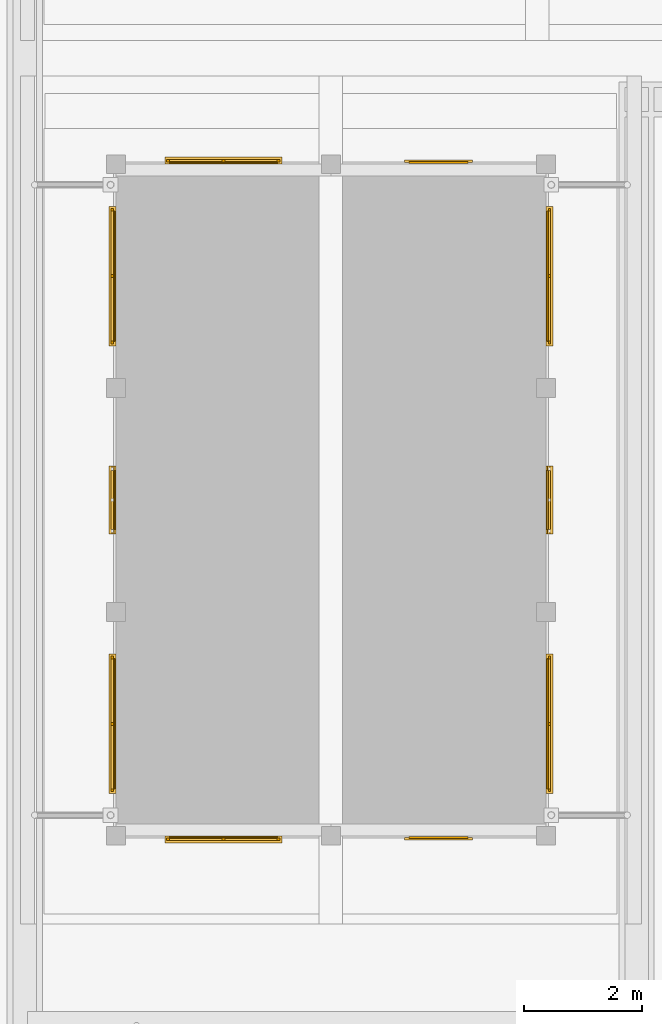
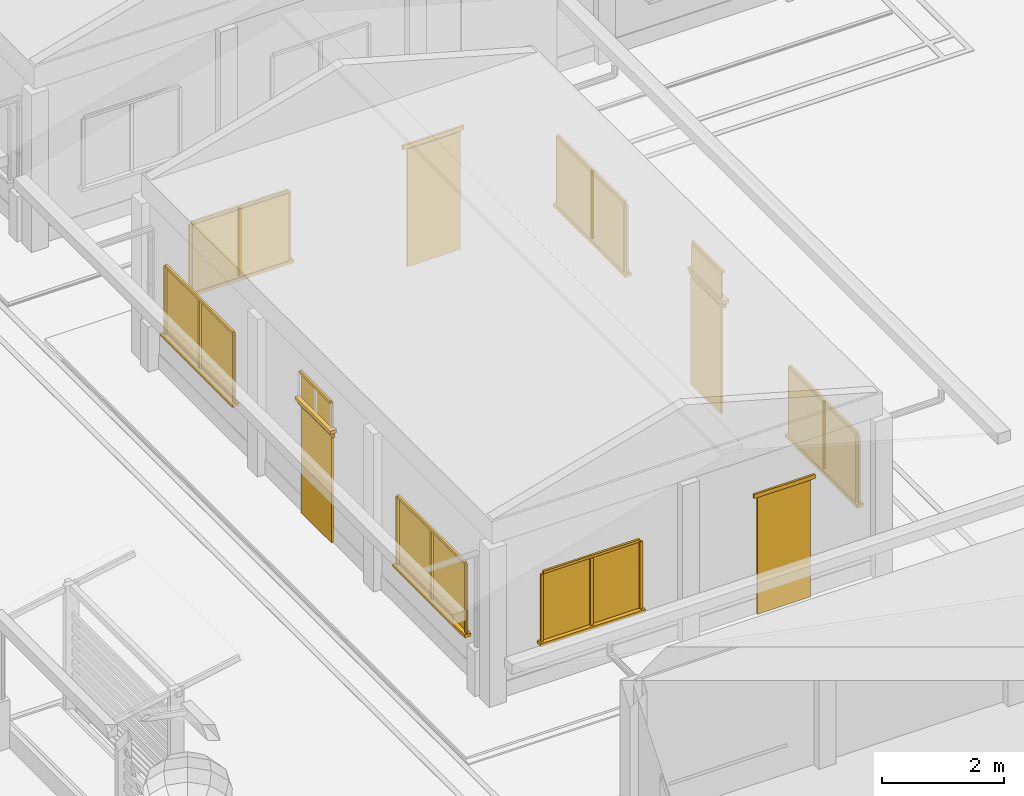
# One storey, part 52 of 177: 42 windows, 8 doors.
"""IFC4 building model written with IfcOpenShell, lengths in metres."""

from ifc_helpers import new_model, si_unit, origin, origin_with_axes, place, context, subcontext, project, spatial, triangles, element, save


model = new_model("IFC4")

# Units and contexts
model_context = context("Model", 3, precision=1e-05, world=origin_with_axes())
body_context = subcontext(model_context, "Body", "Model", "MODEL_VIEW")
ifc_project = project(units=[si_unit("LENGTHUNIT", "METRE"), si_unit("AREAUNIT", "SQUARE_METRE"), si_unit("VOLUMEUNIT", "CUBIC_METRE"), si_unit("PLANEANGLEUNIT", "RADIAN")], contexts=[model_context])

# Site, building, storey
site_placement = place(None, origin_with_axes())
site = spatial("IfcSite", under=ifc_project, at=site_placement, Name="Predio Los Mangos - Morales, San Martín", CompositionType="ELEMENT")
building_placement = place(site_placement, origin())
building = spatial("IfcBuilding", under=site, at=building_placement, Name="Hogar de Refugio Temporal", CompositionType="ELEMENT")
storey_placement = place(building_placement, origin())
storey = spatial("IfcBuildingStorey", under=building, at=storey_placement, Name="NIVEL 1 (NPT +0.00)", CompositionType="ELEMENT", Elevation=0.0)

# Windows
window_1_placement = place(storey_placement, origin())
element("IfcWindow", 1, at=window_1_placement, inside=storey, Name="E-02_vg0_vid", ObjectType="Ventana", PredefinedType="WINDOW", context=body_context, shape_type="Tessellation", body=[
    triangles([(46.2125, 42.86, 1.05), (48.0375, 42.86, 1.05), (48.0375, 42.88, 1.05), (46.2125, 42.88, 1.05), (46.2125, 42.86, 2.4), (48.0375, 42.86, 2.4), (48.0375, 42.88, 2.4), (46.2125, 42.88, 2.4)], [[1, 4, 3], [1, 3, 2], [5, 6, 7], [5, 7, 8], [1, 2, 6], [1, 6, 5], [2, 3, 7], [2, 7, 6], [3, 4, 8], [3, 8, 7], [4, 1, 5], [4, 5, 8]]),
])
window_2_placement = place(storey_placement, origin())
element("IfcWindow", 2, at=window_2_placement, inside=storey, Name="E-02_vg0_m", ObjectType="Ventana", PredefinedType="WINDOW", context=body_context, shape_type="Tessellation", body=[
    triangles([(46.1625, 42.82, 1.05), (46.2125, 42.82, 1.05), (46.2125, 42.86, 1.05), (46.1625, 42.86, 1.05), (46.1625, 42.82, 2.4), (46.2125, 42.82, 2.4), (46.2125, 42.86, 2.4), (46.1625, 42.86, 2.4)], [[1, 4, 3], [1, 3, 2], [5, 6, 7], [5, 7, 8], [1, 2, 6], [1, 6, 5], [2, 3, 7], [2, 7, 6], [3, 4, 8], [3, 8, 7], [4, 1, 5], [4, 5, 8]]),
])
window_3_placement = place(storey_placement, origin())
element("IfcWindow", 3, at=window_3_placement, inside=storey, Name="E-02_vg0_m", ObjectType="Ventana", PredefinedType="WINDOW", context=body_context, shape_type="Tessellation", body=[
    triangles([(48.0375, 42.82, 1.05), (48.0875, 42.82, 1.05), (48.0875, 42.86, 1.05), (48.0375, 42.86, 1.05), (48.0375, 42.82, 2.4), (48.0875, 42.82, 2.4), (48.0875, 42.86, 2.4), (48.0375, 42.86, 2.4)], [[1, 4, 3], [1, 3, 2], [5, 6, 7], [5, 7, 8], [1, 2, 6], [1, 6, 5], [2, 3, 7], [2, 7, 6], [3, 4, 8], [3, 8, 7], [4, 1, 5], [4, 5, 8]]),
])
window_4_placement = place(storey_placement, origin())
element("IfcWindow", 4, at=window_4_placement, inside=storey, Name="E-02_vg0_m", ObjectType="Ventana", PredefinedType="WINDOW", context=body_context, shape_type="Tessellation", body=[
    triangles([(46.2125, 42.82, 2.4), (48.0375, 42.82, 2.4), (48.0375, 42.86, 2.4), (46.2125, 42.86, 2.4), (46.2125, 42.82, 2.45), (48.0375, 42.82, 2.45), (48.0375, 42.86, 2.45), (46.2125, 42.86, 2.45)], [[1, 4, 3], [1, 3, 2], [5, 6, 7], [5, 7, 8], [1, 2, 6], [1, 6, 5], [2, 3, 7], [2, 7, 6], [3, 4, 8], [3, 8, 7], [4, 1, 5], [4, 5, 8]]),
])
window_5_placement = place(storey_placement, origin())
element("IfcWindow", 5, at=window_5_placement, inside=storey, Name="E-02_vg0_m", ObjectType="Ventana", PredefinedType="WINDOW", context=body_context, shape_type="Tessellation", body=[
    triangles([(47.1, 42.82, 1.05), (47.15, 42.82, 1.05), (47.15, 42.86, 1.05), (47.1, 42.86, 1.05), (47.1, 42.82, 2.4), (47.15, 42.82, 2.4), (47.15, 42.86, 2.4), (47.1, 42.86, 2.4)], [[1, 4, 3], [1, 3, 2], [5, 6, 7], [5, 7, 8], [1, 2, 6], [1, 6, 5], [2, 3, 7], [2, 7, 6], [3, 4, 8], [3, 8, 7], [4, 1, 5], [4, 5, 8]]),
])
window_6_placement = place(storey_placement, origin())
element("IfcWindow", 6, at=window_6_placement, inside=storey, Name="E-02_vg0_alf", ObjectType="Ventana", PredefinedType="WINDOW", context=body_context, shape_type="Tessellation", body=[
    triangles([(46.1325, 42.9, 0.99), (48.1175, 42.9, 0.99), (48.1175, 42.78, 0.99), (46.1325, 42.78, 0.99), (46.1325, 42.9, 1.05), (48.1175, 42.9, 1.05), (48.1175, 42.78, 1.05), (46.1325, 42.78, 1.05)], [[1, 4, 3], [1, 3, 2], [5, 6, 7], [5, 7, 8], [1, 2, 6], [1, 6, 5], [2, 3, 7], [2, 7, 6], [3, 4, 8], [3, 8, 7], [4, 1, 5], [4, 5, 8]]),
])

# Doors
door_1_placement = place(storey_placement, origin())
element("IfcDoor", 7, at=door_1_placement, inside=storey, Name="E-02_pp", ObjectType="Puerta", PredefinedType="DOOR", context=body_context, shape_type="Tessellation", body=[
    triangles([(50.275, 42.85, 0.15), (51.275, 42.85, 0.15), (51.275, 42.89, 0.15), (50.275, 42.89, 0.15), (50.275, 42.85, 2.5), (51.275, 42.85, 2.5), (51.275, 42.89, 2.5), (50.275, 42.89, 2.5)], [[1, 4, 3], [1, 3, 2], [5, 6, 7], [5, 7, 8], [1, 2, 6], [1, 6, 5], [2, 3, 7], [2, 7, 6], [3, 4, 8], [3, 8, 7], [4, 1, 5], [4, 5, 8]]),
])
door_2_placement = place(storey_placement, origin())
element("IfcDoor", 8, at=door_2_placement, inside=storey, Name="E-02_pp_marco", ObjectType="Puerta", PredefinedType="DOOR", context=body_context, shape_type="Tessellation", body=[
    triangles([(50.195, 42.83, 2.5), (51.355, 42.83, 2.5), (51.355, 42.87, 2.5), (50.195, 42.87, 2.5), (50.195, 42.83, 2.58), (51.355, 42.83, 2.58), (51.355, 42.87, 2.58), (50.195, 42.87, 2.58)], [[1, 4, 3], [1, 3, 2], [5, 6, 7], [5, 7, 8], [1, 2, 6], [1, 6, 5], [2, 3, 7], [2, 7, 6], [3, 4, 8], [3, 8, 7], [4, 1, 5], [4, 5, 8]]),
])

# Windows
window_7_placement = place(storey_placement, origin())
element("IfcWindow", 9, at=window_7_placement, inside=storey, Name="E-02_vg0_vid", ObjectType="Ventana", PredefinedType="WINDOW", context=body_context, shape_type="Tessellation", body=[
    triangles([(46.2125, 54.32, 1.05), (48.0375, 54.32, 1.05), (48.0375, 54.34, 1.05), (46.2125, 54.34, 1.05), (46.2125, 54.32, 2.4), (48.0375, 54.32, 2.4), (48.0375, 54.34, 2.4), (46.2125, 54.34, 2.4)], [[1, 4, 3], [1, 3, 2], [5, 6, 7], [5, 7, 8], [1, 2, 6], [1, 6, 5], [2, 3, 7], [2, 7, 6], [3, 4, 8], [3, 8, 7], [4, 1, 5], [4, 5, 8]]),
])
window_8_placement = place(storey_placement, origin())
element("IfcWindow", 10, at=window_8_placement, inside=storey, Name="E-02_vg0_m", ObjectType="Ventana", PredefinedType="WINDOW", context=body_context, shape_type="Tessellation", body=[
    triangles([(46.1625, 54.34, 1.05), (46.2125, 54.34, 1.05), (46.2125, 54.38, 1.05), (46.1625, 54.38, 1.05), (46.1625, 54.34, 2.4), (46.2125, 54.34, 2.4), (46.2125, 54.38, 2.4), (46.1625, 54.38, 2.4)], [[1, 4, 3], [1, 3, 2], [5, 6, 7], [5, 7, 8], [1, 2, 6], [1, 6, 5], [2, 3, 7], [2, 7, 6], [3, 4, 8], [3, 8, 7], [4, 1, 5], [4, 5, 8]]),
])
window_9_placement = place(storey_placement, origin())
element("IfcWindow", 11, at=window_9_placement, inside=storey, Name="E-02_vg0_m", ObjectType="Ventana", PredefinedType="WINDOW", context=body_context, shape_type="Tessellation", body=[
    triangles([(48.0375, 54.34, 1.05), (48.0875, 54.34, 1.05), (48.0875, 54.38, 1.05), (48.0375, 54.38, 1.05), (48.0375, 54.34, 2.4), (48.0875, 54.34, 2.4), (48.0875, 54.38, 2.4), (48.0375, 54.38, 2.4)], [[1, 4, 3], [1, 3, 2], [5, 6, 7], [5, 7, 8], [1, 2, 6], [1, 6, 5], [2, 3, 7], [2, 7, 6], [3, 4, 8], [3, 8, 7], [4, 1, 5], [4, 5, 8]]),
])
window_10_placement = place(storey_placement, origin())
element("IfcWindow", 12, at=window_10_placement, inside=storey, Name="E-02_vg0_m", ObjectType="Ventana", PredefinedType="WINDOW", context=body_context, shape_type="Tessellation", body=[
    triangles([(46.2125, 54.34, 2.4), (48.0375, 54.34, 2.4), (48.0375, 54.38, 2.4), (46.2125, 54.38, 2.4), (46.2125, 54.34, 2.45), (48.0375, 54.34, 2.45), (48.0375, 54.38, 2.45), (46.2125, 54.38, 2.45)], [[1, 4, 3], [1, 3, 2], [5, 6, 7], [5, 7, 8], [1, 2, 6], [1, 6, 5], [2, 3, 7], [2, 7, 6], [3, 4, 8], [3, 8, 7], [4, 1, 5], [4, 5, 8]]),
])
window_11_placement = place(storey_placement, origin())
element("IfcWindow", 13, at=window_11_placement, inside=storey, Name="E-02_vg0_m", ObjectType="Ventana", PredefinedType="WINDOW", context=body_context, shape_type="Tessellation", body=[
    triangles([(47.1, 54.34, 1.05), (47.15, 54.34, 1.05), (47.15, 54.38, 1.05), (47.1, 54.38, 1.05), (47.1, 54.34, 2.4), (47.15, 54.34, 2.4), (47.15, 54.38, 2.4), (47.1, 54.38, 2.4)], [[1, 4, 3], [1, 3, 2], [5, 6, 7], [5, 7, 8], [1, 2, 6], [1, 6, 5], [2, 3, 7], [2, 7, 6], [3, 4, 8], [3, 8, 7], [4, 1, 5], [4, 5, 8]]),
])
window_12_placement = place(storey_placement, origin())
element("IfcWindow", 14, at=window_12_placement, inside=storey, Name="E-02_vg0_alf", ObjectType="Ventana", PredefinedType="WINDOW", context=body_context, shape_type="Tessellation", body=[
    triangles([(46.1325, 54.3, 0.99), (48.1175, 54.3, 0.99), (48.1175, 54.42, 0.99), (46.1325, 54.42, 0.99), (46.1325, 54.3, 1.05), (48.1175, 54.3, 1.05), (48.1175, 54.42, 1.05), (46.1325, 54.42, 1.05)], [[1, 4, 3], [1, 3, 2], [5, 6, 7], [5, 7, 8], [1, 2, 6], [1, 6, 5], [2, 3, 7], [2, 7, 6], [3, 4, 8], [3, 8, 7], [4, 1, 5], [4, 5, 8]]),
])

# Doors
door_3_placement = place(storey_placement, origin())
element("IfcDoor", 15, at=door_3_placement, inside=storey, Name="E-02_pp", ObjectType="Puerta", PredefinedType="DOOR", context=body_context, shape_type="Tessellation", body=[
    triangles([(50.275, 54.31, 0.15), (51.275, 54.31, 0.15), (51.275, 54.35, 0.15), (50.275, 54.35, 0.15), (50.275, 54.31, 2.5), (51.275, 54.31, 2.5), (51.275, 54.35, 2.5), (50.275, 54.35, 2.5)], [[1, 4, 3], [1, 3, 2], [5, 6, 7], [5, 7, 8], [1, 2, 6], [1, 6, 5], [2, 3, 7], [2, 7, 6], [3, 4, 8], [3, 8, 7], [4, 1, 5], [4, 5, 8]]),
])
door_4_placement = place(storey_placement, origin())
element("IfcDoor", 16, at=door_4_placement, inside=storey, Name="E-02_pp_marco", ObjectType="Puerta", PredefinedType="DOOR", context=body_context, shape_type="Tessellation", body=[
    triangles([(50.195, 54.33, 2.5), (51.355, 54.33, 2.5), (51.355, 54.37, 2.5), (50.195, 54.37, 2.5), (50.195, 54.33, 2.58), (51.355, 54.33, 2.58), (51.355, 54.37, 2.58), (50.195, 54.37, 2.58)], [[1, 4, 3], [1, 3, 2], [5, 6, 7], [5, 7, 8], [1, 2, 6], [1, 6, 5], [2, 3, 7], [2, 7, 6], [3, 4, 8], [3, 8, 7], [4, 1, 5], [4, 5, 8]]),
])

# Windows
window_13_placement = place(storey_placement, origin())
element("IfcWindow", 17, at=window_13_placement, inside=storey, Name="E-02_v0_vid", ObjectType="Ventana", PredefinedType="WINDOW", context=body_context, shape_type="Tessellation", body=[
    triangles([(45.26, 43.698, 1.05), (45.28, 43.698, 1.05), (45.28, 45.902, 1.05), (45.26, 45.902, 1.05), (45.26, 43.698, 2.4), (45.28, 43.698, 2.4), (45.28, 45.902, 2.4), (45.26, 45.902, 2.4)], [[1, 4, 3], [1, 3, 2], [5, 6, 7], [5, 7, 8], [1, 2, 6], [1, 6, 5], [2, 3, 7], [2, 7, 6], [3, 4, 8], [3, 8, 7], [4, 1, 5], [4, 5, 8]]),
])
window_14_placement = place(storey_placement, origin())
element("IfcWindow", 18, at=window_14_placement, inside=storey, Name="E-02_v0_m", ObjectType="Ventana", PredefinedType="WINDOW", context=body_context, shape_type="Tessellation", body=[
    triangles([(45.22, 43.648, 1.05), (45.26, 43.648, 1.05), (45.26, 43.698, 1.05), (45.22, 43.698, 1.05), (45.22, 43.648, 2.4), (45.26, 43.648, 2.4), (45.26, 43.698, 2.4), (45.22, 43.698, 2.4)], [[1, 4, 3], [1, 3, 2], [5, 6, 7], [5, 7, 8], [1, 2, 6], [1, 6, 5], [2, 3, 7], [2, 7, 6], [3, 4, 8], [3, 8, 7], [4, 1, 5], [4, 5, 8]]),
])
window_15_placement = place(storey_placement, origin())
element("IfcWindow", 19, at=window_15_placement, inside=storey, Name="E-02_v0_m", ObjectType="Ventana", PredefinedType="WINDOW", context=body_context, shape_type="Tessellation", body=[
    triangles([(45.22, 45.902, 1.05), (45.26, 45.902, 1.05), (45.26, 45.952, 1.05), (45.22, 45.952, 1.05), (45.22, 45.902, 2.4), (45.26, 45.902, 2.4), (45.26, 45.952, 2.4), (45.22, 45.952, 2.4)], [[1, 4, 3], [1, 3, 2], [5, 6, 7], [5, 7, 8], [1, 2, 6], [1, 6, 5], [2, 3, 7], [2, 7, 6], [3, 4, 8], [3, 8, 7], [4, 1, 5], [4, 5, 8]]),
])
window_16_placement = place(storey_placement, origin())
element("IfcWindow", 20, at=window_16_placement, inside=storey, Name="E-02_v0_m", ObjectType="Ventana", PredefinedType="WINDOW", context=body_context, shape_type="Tessellation", body=[
    triangles([(45.22, 43.698, 2.4), (45.26, 43.698, 2.4), (45.26, 45.902, 2.4), (45.22, 45.902, 2.4), (45.22, 43.698, 2.45), (45.26, 43.698, 2.45), (45.26, 45.902, 2.45), (45.22, 45.902, 2.45)], [[1, 4, 3], [1, 3, 2], [5, 6, 7], [5, 7, 8], [1, 2, 6], [1, 6, 5], [2, 3, 7], [2, 7, 6], [3, 4, 8], [3, 8, 7], [4, 1, 5], [4, 5, 8]]),
])
window_17_placement = place(storey_placement, origin())
element("IfcWindow", 21, at=window_17_placement, inside=storey, Name="E-02_v0_m", ObjectType="Ventana", PredefinedType="WINDOW", context=body_context, shape_type="Tessellation", body=[
    triangles([(45.22, 44.775, 1.05), (45.26, 44.775, 1.05), (45.26, 44.825, 1.05), (45.22, 44.825, 1.05), (45.22, 44.775, 2.4), (45.26, 44.775, 2.4), (45.26, 44.825, 2.4), (45.22, 44.825, 2.4)], [[1, 4, 3], [1, 3, 2], [5, 6, 7], [5, 7, 8], [1, 2, 6], [1, 6, 5], [2, 3, 7], [2, 7, 6], [3, 4, 8], [3, 8, 7], [4, 1, 5], [4, 5, 8]]),
])
window_18_placement = place(storey_placement, origin())
element("IfcWindow", 22, at=window_18_placement, inside=storey, Name="E-02_v0_alf", ObjectType="Ventana", PredefinedType="WINDOW", context=body_context, shape_type="Tessellation", body=[
    triangles([(45.3, 43.618, 0.99), (45.18, 43.618, 0.99), (45.18, 45.982, 0.99), (45.3, 45.982, 0.99), (45.3, 43.618, 1.05), (45.18, 43.618, 1.05), (45.18, 45.982, 1.05), (45.3, 45.982, 1.05)], [[1, 4, 3], [1, 3, 2], [5, 6, 7], [5, 7, 8], [1, 2, 6], [1, 6, 5], [2, 3, 7], [2, 7, 6], [3, 4, 8], [3, 8, 7], [4, 1, 5], [4, 5, 8]]),
])

# Doors
door_5_placement = place(storey_placement, origin())
element("IfcDoor", 23, at=door_5_placement, inside=storey, Name="E-02_p1", ObjectType="Puerta", PredefinedType="DOOR", context=body_context, shape_type="Tessellation", body=[
    triangles([(45.25, 48.1, 0.15), (45.29, 48.1, 0.15), (45.29, 49.1, 0.15), (45.25, 49.1, 0.15), (45.25, 48.1, 2.3), (45.29, 48.1, 2.3), (45.29, 49.1, 2.3), (45.25, 49.1, 2.3)], [[1, 4, 3], [1, 3, 2], [5, 6, 7], [5, 7, 8], [1, 2, 6], [1, 6, 5], [2, 3, 7], [2, 7, 6], [3, 4, 8], [3, 8, 7], [4, 1, 5], [4, 5, 8]]),
])
door_6_placement = place(storey_placement, origin())
element("IfcDoor", 24, at=door_6_placement, inside=storey, Name="E-02_p1_marco", ObjectType="Puerta", PredefinedType="DOOR", context=body_context, shape_type="Tessellation", body=[
    triangles([(45.23, 48.02, 2.3), (45.27, 48.02, 2.3), (45.27, 49.18, 2.3), (45.23, 49.18, 2.3), (45.23, 48.02, 2.38), (45.27, 48.02, 2.38), (45.27, 49.18, 2.38), (45.23, 49.18, 2.38)], [[1, 4, 3], [1, 3, 2], [5, 6, 7], [5, 7, 8], [1, 2, 6], [1, 6, 5], [2, 3, 7], [2, 7, 6], [3, 4, 8], [3, 8, 7], [4, 1, 5], [4, 5, 8]]),
])

# Windows
window_19_placement = place(storey_placement, origin())
element("IfcWindow", 25, at=window_19_placement, inside=storey, Name="E-02_vt1_vid", ObjectType="Ventana", PredefinedType="WINDOW", context=body_context, shape_type="Tessellation", body=[
    triangles([(45.26, 48.1, 2.45), (45.28, 48.1, 2.45), (45.28, 49.1, 2.45), (45.26, 49.1, 2.45), (45.26, 48.1, 2.95), (45.28, 48.1, 2.95), (45.28, 49.1, 2.95), (45.26, 49.1, 2.95)], [[1, 4, 3], [1, 3, 2], [5, 6, 7], [5, 7, 8], [1, 2, 6], [1, 6, 5], [2, 3, 7], [2, 7, 6], [3, 4, 8], [3, 8, 7], [4, 1, 5], [4, 5, 8]]),
])
window_20_placement = place(storey_placement, origin())
element("IfcWindow", 26, at=window_20_placement, inside=storey, Name="E-02_vt1_m", ObjectType="Ventana", PredefinedType="WINDOW", context=body_context, shape_type="Tessellation", body=[
    triangles([(45.22, 48.1, 2.95), (45.26, 48.1, 2.95), (45.26, 49.1, 2.95), (45.22, 49.1, 2.95), (45.22, 48.1, 3.0), (45.26, 48.1, 3.0), (45.26, 49.1, 3.0), (45.22, 49.1, 3.0)], [[1, 4, 3], [1, 3, 2], [5, 6, 7], [5, 7, 8], [1, 2, 6], [1, 6, 5], [2, 3, 7], [2, 7, 6], [3, 4, 8], [3, 8, 7], [4, 1, 5], [4, 5, 8]]),
])
window_21_placement = place(storey_placement, origin())
element("IfcWindow", 27, at=window_21_placement, inside=storey, Name="E-02_vt1_alf", ObjectType="Ventana", PredefinedType="WINDOW", context=body_context, shape_type="Tessellation", body=[
    triangles([(45.3, 48.02, 2.39), (45.18, 48.02, 2.39), (45.18, 49.18, 2.39), (45.3, 49.18, 2.39), (45.3, 48.02, 2.45), (45.18, 48.02, 2.45), (45.18, 49.18, 2.45), (45.3, 49.18, 2.45)], [[1, 4, 3], [1, 3, 2], [5, 6, 7], [5, 7, 8], [1, 2, 6], [1, 6, 5], [2, 3, 7], [2, 7, 6], [3, 4, 8], [3, 8, 7], [4, 1, 5], [4, 5, 8]]),
])
window_22_placement = place(storey_placement, origin())
element("IfcWindow", 28, at=window_22_placement, inside=storey, Name="E-02_v2_vid", ObjectType="Ventana", PredefinedType="WINDOW", context=body_context, shape_type="Tessellation", body=[
    triangles([(45.26, 51.298, 1.05), (45.28, 51.298, 1.05), (45.28, 53.502, 1.05), (45.26, 53.502, 1.05), (45.26, 51.298, 2.4), (45.28, 51.298, 2.4), (45.28, 53.502, 2.4), (45.26, 53.502, 2.4)], [[1, 4, 3], [1, 3, 2], [5, 6, 7], [5, 7, 8], [1, 2, 6], [1, 6, 5], [2, 3, 7], [2, 7, 6], [3, 4, 8], [3, 8, 7], [4, 1, 5], [4, 5, 8]]),
])
window_23_placement = place(storey_placement, origin())
element("IfcWindow", 29, at=window_23_placement, inside=storey, Name="E-02_v2_m", ObjectType="Ventana", PredefinedType="WINDOW", context=body_context, shape_type="Tessellation", body=[
    triangles([(45.22, 51.248, 1.05), (45.26, 51.248, 1.05), (45.26, 51.298, 1.05), (45.22, 51.298, 1.05), (45.22, 51.248, 2.4), (45.26, 51.248, 2.4), (45.26, 51.298, 2.4), (45.22, 51.298, 2.4)], [[1, 4, 3], [1, 3, 2], [5, 6, 7], [5, 7, 8], [1, 2, 6], [1, 6, 5], [2, 3, 7], [2, 7, 6], [3, 4, 8], [3, 8, 7], [4, 1, 5], [4, 5, 8]]),
])
window_24_placement = place(storey_placement, origin())
element("IfcWindow", 30, at=window_24_placement, inside=storey, Name="E-02_v2_m", ObjectType="Ventana", PredefinedType="WINDOW", context=body_context, shape_type="Tessellation", body=[
    triangles([(45.22, 53.502, 1.05), (45.26, 53.502, 1.05), (45.26, 53.552, 1.05), (45.22, 53.552, 1.05), (45.22, 53.502, 2.4), (45.26, 53.502, 2.4), (45.26, 53.552, 2.4), (45.22, 53.552, 2.4)], [[1, 4, 3], [1, 3, 2], [5, 6, 7], [5, 7, 8], [1, 2, 6], [1, 6, 5], [2, 3, 7], [2, 7, 6], [3, 4, 8], [3, 8, 7], [4, 1, 5], [4, 5, 8]]),
])
window_25_placement = place(storey_placement, origin())
element("IfcWindow", 31, at=window_25_placement, inside=storey, Name="E-02_v2_m", ObjectType="Ventana", PredefinedType="WINDOW", context=body_context, shape_type="Tessellation", body=[
    triangles([(45.22, 51.298, 2.4), (45.26, 51.298, 2.4), (45.26, 53.502, 2.4), (45.22, 53.502, 2.4), (45.22, 51.298, 2.45), (45.26, 51.298, 2.45), (45.26, 53.502, 2.45), (45.22, 53.502, 2.45)], [[1, 4, 3], [1, 3, 2], [5, 6, 7], [5, 7, 8], [1, 2, 6], [1, 6, 5], [2, 3, 7], [2, 7, 6], [3, 4, 8], [3, 8, 7], [4, 1, 5], [4, 5, 8]]),
])
window_26_placement = place(storey_placement, origin())
element("IfcWindow", 32, at=window_26_placement, inside=storey, Name="E-02_v2_m", ObjectType="Ventana", PredefinedType="WINDOW", context=body_context, shape_type="Tessellation", body=[
    triangles([(45.22, 52.375, 1.05), (45.26, 52.375, 1.05), (45.26, 52.425, 1.05), (45.22, 52.425, 1.05), (45.22, 52.375, 2.4), (45.26, 52.375, 2.4), (45.26, 52.425, 2.4), (45.22, 52.425, 2.4)], [[1, 4, 3], [1, 3, 2], [5, 6, 7], [5, 7, 8], [1, 2, 6], [1, 6, 5], [2, 3, 7], [2, 7, 6], [3, 4, 8], [3, 8, 7], [4, 1, 5], [4, 5, 8]]),
])
window_27_placement = place(storey_placement, origin())
element("IfcWindow", 33, at=window_27_placement, inside=storey, Name="E-02_v2_alf", ObjectType="Ventana", PredefinedType="WINDOW", context=body_context, shape_type="Tessellation", body=[
    triangles([(45.3, 51.218, 0.99), (45.18, 51.218, 0.99), (45.18, 53.582, 0.99), (45.3, 53.582, 0.99), (45.3, 51.218, 1.05), (45.18, 51.218, 1.05), (45.18, 53.582, 1.05), (45.3, 53.582, 1.05)], [[1, 4, 3], [1, 3, 2], [5, 6, 7], [5, 7, 8], [1, 2, 6], [1, 6, 5], [2, 3, 7], [2, 7, 6], [3, 4, 8], [3, 8, 7], [4, 1, 5], [4, 5, 8]]),
])
window_28_placement = place(storey_placement, origin())
element("IfcWindow", 34, at=window_28_placement, inside=storey, Name="E-02_v0_vid", ObjectType="Ventana", PredefinedType="WINDOW", context=body_context, shape_type="Tessellation", body=[
    triangles([(52.62, 43.698, 1.05), (52.64, 43.698, 1.05), (52.64, 45.902, 1.05), (52.62, 45.902, 1.05), (52.62, 43.698, 2.4), (52.64, 43.698, 2.4), (52.64, 45.902, 2.4), (52.62, 45.902, 2.4)], [[1, 4, 3], [1, 3, 2], [5, 6, 7], [5, 7, 8], [1, 2, 6], [1, 6, 5], [2, 3, 7], [2, 7, 6], [3, 4, 8], [3, 8, 7], [4, 1, 5], [4, 5, 8]]),
])
window_29_placement = place(storey_placement, origin())
element("IfcWindow", 35, at=window_29_placement, inside=storey, Name="E-02_v0_m", ObjectType="Ventana", PredefinedType="WINDOW", context=body_context, shape_type="Tessellation", body=[
    triangles([(52.64, 43.648, 1.05), (52.68, 43.648, 1.05), (52.68, 43.698, 1.05), (52.64, 43.698, 1.05), (52.64, 43.648, 2.4), (52.68, 43.648, 2.4), (52.68, 43.698, 2.4), (52.64, 43.698, 2.4)], [[1, 4, 3], [1, 3, 2], [5, 6, 7], [5, 7, 8], [1, 2, 6], [1, 6, 5], [2, 3, 7], [2, 7, 6], [3, 4, 8], [3, 8, 7], [4, 1, 5], [4, 5, 8]]),
])
window_30_placement = place(storey_placement, origin())
element("IfcWindow", 36, at=window_30_placement, inside=storey, Name="E-02_v0_m", ObjectType="Ventana", PredefinedType="WINDOW", context=body_context, shape_type="Tessellation", body=[
    triangles([(52.64, 45.902, 1.05), (52.68, 45.902, 1.05), (52.68, 45.952, 1.05), (52.64, 45.952, 1.05), (52.64, 45.902, 2.4), (52.68, 45.902, 2.4), (52.68, 45.952, 2.4), (52.64, 45.952, 2.4)], [[1, 4, 3], [1, 3, 2], [5, 6, 7], [5, 7, 8], [1, 2, 6], [1, 6, 5], [2, 3, 7], [2, 7, 6], [3, 4, 8], [3, 8, 7], [4, 1, 5], [4, 5, 8]]),
])
window_31_placement = place(storey_placement, origin())
element("IfcWindow", 37, at=window_31_placement, inside=storey, Name="E-02_v0_m", ObjectType="Ventana", PredefinedType="WINDOW", context=body_context, shape_type="Tessellation", body=[
    triangles([(52.64, 43.698, 2.4), (52.68, 43.698, 2.4), (52.68, 45.902, 2.4), (52.64, 45.902, 2.4), (52.64, 43.698, 2.45), (52.68, 43.698, 2.45), (52.68, 45.902, 2.45), (52.64, 45.902, 2.45)], [[1, 4, 3], [1, 3, 2], [5, 6, 7], [5, 7, 8], [1, 2, 6], [1, 6, 5], [2, 3, 7], [2, 7, 6], [3, 4, 8], [3, 8, 7], [4, 1, 5], [4, 5, 8]]),
])
window_32_placement = place(storey_placement, origin())
element("IfcWindow", 38, at=window_32_placement, inside=storey, Name="E-02_v0_m", ObjectType="Ventana", PredefinedType="WINDOW", context=body_context, shape_type="Tessellation", body=[
    triangles([(52.64, 44.775, 1.05), (52.68, 44.775, 1.05), (52.68, 44.825, 1.05), (52.64, 44.825, 1.05), (52.64, 44.775, 2.4), (52.68, 44.775, 2.4), (52.68, 44.825, 2.4), (52.64, 44.825, 2.4)], [[1, 4, 3], [1, 3, 2], [5, 6, 7], [5, 7, 8], [1, 2, 6], [1, 6, 5], [2, 3, 7], [2, 7, 6], [3, 4, 8], [3, 8, 7], [4, 1, 5], [4, 5, 8]]),
])
window_33_placement = place(storey_placement, origin())
element("IfcWindow", 39, at=window_33_placement, inside=storey, Name="E-02_v0_alf", ObjectType="Ventana", PredefinedType="WINDOW", context=body_context, shape_type="Tessellation", body=[
    triangles([(52.6, 43.618, 0.99), (52.72, 43.618, 0.99), (52.72, 45.982, 0.99), (52.6, 45.982, 0.99), (52.6, 43.618, 1.05), (52.72, 43.618, 1.05), (52.72, 45.982, 1.05), (52.6, 45.982, 1.05)], [[1, 4, 3], [1, 3, 2], [5, 6, 7], [5, 7, 8], [1, 2, 6], [1, 6, 5], [2, 3, 7], [2, 7, 6], [3, 4, 8], [3, 8, 7], [4, 1, 5], [4, 5, 8]]),
])

# Doors
door_7_placement = place(storey_placement, origin())
element("IfcDoor", 40, at=door_7_placement, inside=storey, Name="E-02_p1", ObjectType="Puerta", PredefinedType="DOOR", context=body_context, shape_type="Tessellation", body=[
    triangles([(52.61, 48.1, 0.15), (52.65, 48.1, 0.15), (52.65, 49.1, 0.15), (52.61, 49.1, 0.15), (52.61, 48.1, 2.3), (52.65, 48.1, 2.3), (52.65, 49.1, 2.3), (52.61, 49.1, 2.3)], [[1, 4, 3], [1, 3, 2], [5, 6, 7], [5, 7, 8], [1, 2, 6], [1, 6, 5], [2, 3, 7], [2, 7, 6], [3, 4, 8], [3, 8, 7], [4, 1, 5], [4, 5, 8]]),
])
door_8_placement = place(storey_placement, origin())
element("IfcDoor", 41, at=door_8_placement, inside=storey, Name="E-02_p1_marco", ObjectType="Puerta", PredefinedType="DOOR", context=body_context, shape_type="Tessellation", body=[
    triangles([(52.63, 48.02, 2.3), (52.67, 48.02, 2.3), (52.67, 49.18, 2.3), (52.63, 49.18, 2.3), (52.63, 48.02, 2.38), (52.67, 48.02, 2.38), (52.67, 49.18, 2.38), (52.63, 49.18, 2.38)], [[1, 4, 3], [1, 3, 2], [5, 6, 7], [5, 7, 8], [1, 2, 6], [1, 6, 5], [2, 3, 7], [2, 7, 6], [3, 4, 8], [3, 8, 7], [4, 1, 5], [4, 5, 8]]),
])

# Windows
window_34_placement = place(storey_placement, origin())
element("IfcWindow", 42, at=window_34_placement, inside=storey, Name="E-02_vt1_vid", ObjectType="Ventana", PredefinedType="WINDOW", context=body_context, shape_type="Tessellation", body=[
    triangles([(52.62, 48.1, 2.45), (52.64, 48.1, 2.45), (52.64, 49.1, 2.45), (52.62, 49.1, 2.45), (52.62, 48.1, 2.95), (52.64, 48.1, 2.95), (52.64, 49.1, 2.95), (52.62, 49.1, 2.95)], [[1, 4, 3], [1, 3, 2], [5, 6, 7], [5, 7, 8], [1, 2, 6], [1, 6, 5], [2, 3, 7], [2, 7, 6], [3, 4, 8], [3, 8, 7], [4, 1, 5], [4, 5, 8]]),
])
window_35_placement = place(storey_placement, origin())
element("IfcWindow", 43, at=window_35_placement, inside=storey, Name="E-02_vt1_m", ObjectType="Ventana", PredefinedType="WINDOW", context=body_context, shape_type="Tessellation", body=[
    triangles([(52.64, 48.1, 2.95), (52.68, 48.1, 2.95), (52.68, 49.1, 2.95), (52.64, 49.1, 2.95), (52.64, 48.1, 3.0), (52.68, 48.1, 3.0), (52.68, 49.1, 3.0), (52.64, 49.1, 3.0)], [[1, 4, 3], [1, 3, 2], [5, 6, 7], [5, 7, 8], [1, 2, 6], [1, 6, 5], [2, 3, 7], [2, 7, 6], [3, 4, 8], [3, 8, 7], [4, 1, 5], [4, 5, 8]]),
])
window_36_placement = place(storey_placement, origin())
element("IfcWindow", 44, at=window_36_placement, inside=storey, Name="E-02_vt1_alf", ObjectType="Ventana", PredefinedType="WINDOW", context=body_context, shape_type="Tessellation", body=[
    triangles([(52.6, 48.02, 2.39), (52.72, 48.02, 2.39), (52.72, 49.18, 2.39), (52.6, 49.18, 2.39), (52.6, 48.02, 2.45), (52.72, 48.02, 2.45), (52.72, 49.18, 2.45), (52.6, 49.18, 2.45)], [[1, 4, 3], [1, 3, 2], [5, 6, 7], [5, 7, 8], [1, 2, 6], [1, 6, 5], [2, 3, 7], [2, 7, 6], [3, 4, 8], [3, 8, 7], [4, 1, 5], [4, 5, 8]]),
])
window_37_placement = place(storey_placement, origin())
element("IfcWindow", 45, at=window_37_placement, inside=storey, Name="E-02_v2_vid", ObjectType="Ventana", PredefinedType="WINDOW", context=body_context, shape_type="Tessellation", body=[
    triangles([(52.62, 51.298, 1.05), (52.64, 51.298, 1.05), (52.64, 53.502, 1.05), (52.62, 53.502, 1.05), (52.62, 51.298, 2.4), (52.64, 51.298, 2.4), (52.64, 53.502, 2.4), (52.62, 53.502, 2.4)], [[1, 4, 3], [1, 3, 2], [5, 6, 7], [5, 7, 8], [1, 2, 6], [1, 6, 5], [2, 3, 7], [2, 7, 6], [3, 4, 8], [3, 8, 7], [4, 1, 5], [4, 5, 8]]),
])
window_38_placement = place(storey_placement, origin())
element("IfcWindow", 46, at=window_38_placement, inside=storey, Name="E-02_v2_m", ObjectType="Ventana", PredefinedType="WINDOW", context=body_context, shape_type="Tessellation", body=[
    triangles([(52.64, 51.248, 1.05), (52.68, 51.248, 1.05), (52.68, 51.298, 1.05), (52.64, 51.298, 1.05), (52.64, 51.248, 2.4), (52.68, 51.248, 2.4), (52.68, 51.298, 2.4), (52.64, 51.298, 2.4)], [[1, 4, 3], [1, 3, 2], [5, 6, 7], [5, 7, 8], [1, 2, 6], [1, 6, 5], [2, 3, 7], [2, 7, 6], [3, 4, 8], [3, 8, 7], [4, 1, 5], [4, 5, 8]]),
])
window_39_placement = place(storey_placement, origin())
element("IfcWindow", 47, at=window_39_placement, inside=storey, Name="E-02_v2_m", ObjectType="Ventana", PredefinedType="WINDOW", context=body_context, shape_type="Tessellation", body=[
    triangles([(52.64, 53.502, 1.05), (52.68, 53.502, 1.05), (52.68, 53.552, 1.05), (52.64, 53.552, 1.05), (52.64, 53.502, 2.4), (52.68, 53.502, 2.4), (52.68, 53.552, 2.4), (52.64, 53.552, 2.4)], [[1, 4, 3], [1, 3, 2], [5, 6, 7], [5, 7, 8], [1, 2, 6], [1, 6, 5], [2, 3, 7], [2, 7, 6], [3, 4, 8], [3, 8, 7], [4, 1, 5], [4, 5, 8]]),
])
window_40_placement = place(storey_placement, origin())
element("IfcWindow", 48, at=window_40_placement, inside=storey, Name="E-02_v2_m", ObjectType="Ventana", PredefinedType="WINDOW", context=body_context, shape_type="Tessellation", body=[
    triangles([(52.64, 51.298, 2.4), (52.68, 51.298, 2.4), (52.68, 53.502, 2.4), (52.64, 53.502, 2.4), (52.64, 51.298, 2.45), (52.68, 51.298, 2.45), (52.68, 53.502, 2.45), (52.64, 53.502, 2.45)], [[1, 4, 3], [1, 3, 2], [5, 6, 7], [5, 7, 8], [1, 2, 6], [1, 6, 5], [2, 3, 7], [2, 7, 6], [3, 4, 8], [3, 8, 7], [4, 1, 5], [4, 5, 8]]),
])
window_41_placement = place(storey_placement, origin())
element("IfcWindow", 49, at=window_41_placement, inside=storey, Name="E-02_v2_m", ObjectType="Ventana", PredefinedType="WINDOW", context=body_context, shape_type="Tessellation", body=[
    triangles([(52.64, 52.375, 1.05), (52.68, 52.375, 1.05), (52.68, 52.425, 1.05), (52.64, 52.425, 1.05), (52.64, 52.375, 2.4), (52.68, 52.375, 2.4), (52.68, 52.425, 2.4), (52.64, 52.425, 2.4)], [[1, 4, 3], [1, 3, 2], [5, 6, 7], [5, 7, 8], [1, 2, 6], [1, 6, 5], [2, 3, 7], [2, 7, 6], [3, 4, 8], [3, 8, 7], [4, 1, 5], [4, 5, 8]]),
])
window_42_placement = place(storey_placement, origin())
element("IfcWindow", 50, at=window_42_placement, inside=storey, Name="E-02_v2_alf", ObjectType="Ventana", PredefinedType="WINDOW", context=body_context, shape_type="Tessellation", body=[
    triangles([(52.6, 51.218, 0.99), (52.72, 51.218, 0.99), (52.72, 53.582, 0.99), (52.6, 53.582, 0.99), (52.6, 51.218, 1.05), (52.72, 51.218, 1.05), (52.72, 53.582, 1.05), (52.6, 53.582, 1.05)], [[1, 4, 3], [1, 3, 2], [5, 6, 7], [5, 7, 8], [1, 2, 6], [1, 6, 5], [2, 3, 7], [2, 7, 6], [3, 4, 8], [3, 8, 7], [4, 1, 5], [4, 5, 8]]),
])

save(model, "model.ifc")
